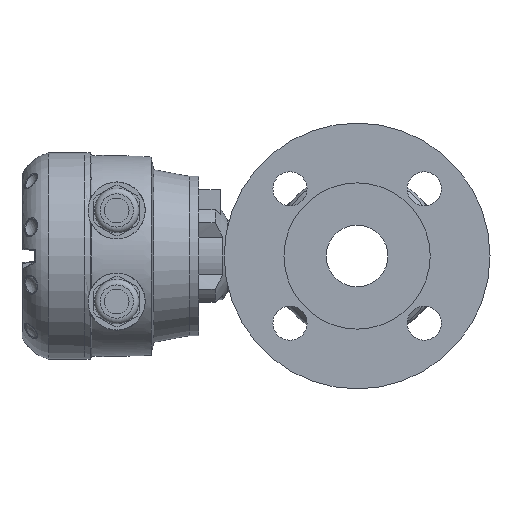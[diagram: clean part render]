
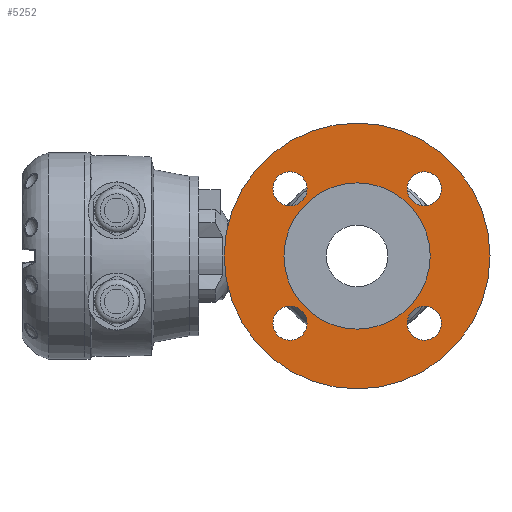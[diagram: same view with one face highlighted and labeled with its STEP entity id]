
A CAD part, left-side view. The second image highlights one B-rep face of the part: STEP entity #5252.
In plain terms, the highlighted planar face has unit normal (-1, 0, 0).
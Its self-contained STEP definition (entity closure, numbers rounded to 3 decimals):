
#24 = VERTEX_POINT ( 'NONE', #25 ) ;
#25 = CARTESIAN_POINT ( 'NONE',  ( -65.805, -77.017, -80.543 ) ) ;
#686 = FACE_BOUND ( 'NONE', #14885, .T. ) ;
#688 = FACE_BOUND ( 'NONE', #14844, .T. ) ;
#692 = FACE_OUTER_BOUND ( 'NONE', #14919, .T. ) ;
#694 = FACE_BOUND ( 'NONE', #14876, .T. ) ;
#696 = FACE_BOUND ( 'NONE', #14881, .T. ) ;
#698 = FACE_BOUND ( 'NONE', #14995, .T. ) ;
#1217 = CIRCLE ( 'NONE', #11663, 9. ) ;
#1252 = CIRCLE ( 'NONE', #11670, 9. ) ;
#1255 = CIRCLE ( 'NONE', #11666, 9. ) ;
#1290 = CIRCLE ( 'NONE', #11677, 9. ) ;
#2415 = CARTESIAN_POINT ( 'NONE',  ( -65.805, -112.372, -45.898 ) ) ;
#2417 = DIRECTION ( 'NONE',  ( -1., 0., 0. ) ) ;
#2418 = DIRECTION ( 'NONE',  ( 0., 0., 1. ) ) ;
#2484 = CARTESIAN_POINT ( 'NONE',  ( -65.805, -41.662, -45.898 ) ) ;
#2490 = CARTESIAN_POINT ( 'NONE',  ( -65.805, -41.662, 24.813 ) ) ;
#2491 = DIRECTION ( 'NONE',  ( -1., 0., 0. ) ) ;
#2492 = DIRECTION ( 'NONE',  ( 0., 0., 1. ) ) ;
#2498 = DIRECTION ( 'NONE',  ( -1., 0., 0. ) ) ;
#2499 = DIRECTION ( 'NONE',  ( 0., 0., 1. ) ) ;
#2579 = CARTESIAN_POINT ( 'NONE',  ( -65.805, -112.372, 24.813 ) ) ;
#2580 = DIRECTION ( 'NONE',  ( -1., 0., 0. ) ) ;
#2581 = DIRECTION ( 'NONE',  ( 0., 0., 1. ) ) ;
#2829 = CARTESIAN_POINT ( 'NONE',  ( -65.805, -77.017, -10.543 ) ) ;
#2833 = DIRECTION ( 'NONE',  ( 1., 0., 0. ) ) ;
#2834 = DIRECTION ( 'NONE',  ( 0., 0., -1. ) ) ;
#3113 = EDGE_CURVE ( 'NONE', #4852, #4852, #13065, .T. ) ;
#4852 = VERTEX_POINT ( 'NONE', #4853 ) ;
#4853 = CARTESIAN_POINT ( 'NONE',  ( -65.805, -77.017, -49.043 ) ) ;
#4964 = VERTEX_POINT ( 'NONE', #4965 ) ;
#4965 = CARTESIAN_POINT ( 'NONE',  ( -65.805, -112.372, -36.898 ) ) ;
#4968 = VERTEX_POINT ( 'NONE', #4969 ) ;
#4969 = CARTESIAN_POINT ( 'NONE',  ( -65.805, -41.662, 33.813 ) ) ;
#4970 = VERTEX_POINT ( 'NONE', #4971 ) ;
#4971 = CARTESIAN_POINT ( 'NONE',  ( -65.805, -41.662, -36.898 ) ) ;
#4974 = VERTEX_POINT ( 'NONE', #4975 ) ;
#4975 = CARTESIAN_POINT ( 'NONE',  ( -65.805, -112.372, 33.813 ) ) ;
#5252 = ADVANCED_FACE ( 'NONE', ( #688, #694, #696, #698, #692, #686 ), #6127, .T. ) ;
#5465 = CIRCLE ( 'NONE', #11680, 70. ) ;
#6121 = CARTESIAN_POINT ( 'NONE',  ( -65.805, -77.017, -10.543 ) ) ;
#6127 = PLANE ( 'NONE',  #11294 ) ;
#6130 = DIRECTION ( 'NONE',  ( -1., 0., 0. ) ) ;
#6131 = DIRECTION ( 'NONE',  ( 0., 0., -1. ) ) ;
#7932 = CARTESIAN_POINT ( 'NONE',  ( -65.805, -77.017, -10.543 ) ) ;
#7933 = DIRECTION ( 'NONE',  ( 1., 0., 0. ) ) ;
#7934 = DIRECTION ( 'NONE',  ( 0., 0., -1. ) ) ;
#9324 = EDGE_CURVE ( 'NONE', #4964, #4964, #1217, .T. ) ;
#9393 = EDGE_CURVE ( 'NONE', #4968, #4968, #1252, .T. ) ;
#9400 = EDGE_CURVE ( 'NONE', #4970, #4970, #1255, .T. ) ;
#9479 = EDGE_CURVE ( 'NONE', #4974, #4974, #1290, .T. ) ;
#9751 = EDGE_CURVE ( 'NONE', #24, #24, #5465, .T. ) ;
#10274 = AXIS2_PLACEMENT_3D ( 'NONE', #7932, #7933, #7934 ) ;
#11294 = AXIS2_PLACEMENT_3D ( 'NONE', #6121, #6130, #6131 ) ;
#11663 = AXIS2_PLACEMENT_3D ( 'NONE', #2415, #2417, #2418 ) ;
#11666 = AXIS2_PLACEMENT_3D ( 'NONE', #2484, #2498, #2499 ) ;
#11670 = AXIS2_PLACEMENT_3D ( 'NONE', #2490, #2491, #2492 ) ;
#11677 = AXIS2_PLACEMENT_3D ( 'NONE', #2579, #2580, #2581 ) ;
#11680 = AXIS2_PLACEMENT_3D ( 'NONE', #2829, #2833, #2834 ) ;
#12692 = ORIENTED_EDGE ( 'NONE', *, *, #9393, .F. ) ;
#12693 = ORIENTED_EDGE ( 'NONE', *, *, #9479, .F. ) ;
#12694 = ORIENTED_EDGE ( 'NONE', *, *, #9324, .F. ) ;
#12695 = ORIENTED_EDGE ( 'NONE', *, *, #9400, .F. ) ;
#12696 = ORIENTED_EDGE ( 'NONE', *, *, #9751, .F. ) ;
#12697 = ORIENTED_EDGE ( 'NONE', *, *, #3113, .T. ) ;
#13065 = CIRCLE ( 'NONE', #10274, 38.5 ) ;
#14844 = EDGE_LOOP ( 'NONE', ( #12692 ) ) ;
#14876 = EDGE_LOOP ( 'NONE', ( #12693 ) ) ;
#14881 = EDGE_LOOP ( 'NONE', ( #12694 ) ) ;
#14885 = EDGE_LOOP ( 'NONE', ( #12697 ) ) ;
#14919 = EDGE_LOOP ( 'NONE', ( #12696 ) ) ;
#14995 = EDGE_LOOP ( 'NONE', ( #12695 ) ) ;
